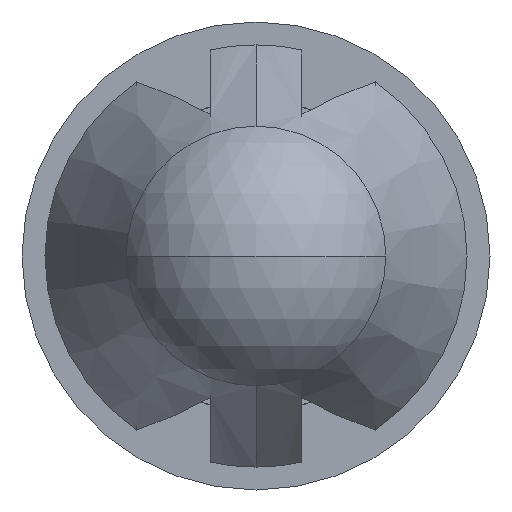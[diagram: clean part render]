
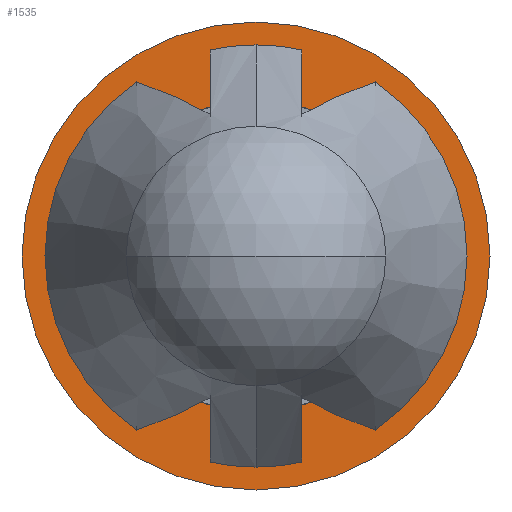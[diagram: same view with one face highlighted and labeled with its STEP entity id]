
A CAD part, front view. The second image highlights one B-rep face of the part: STEP entity #1535.
In plain terms, the highlighted planar face has unit normal (0, -1, 0).
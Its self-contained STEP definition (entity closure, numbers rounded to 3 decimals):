
#24 = EDGE_CURVE ( 'NONE', #1466, #1499, #358, .T. ) ;
#47 = EDGE_CURVE ( 'NONE', #1440, #1448, #335, .T. ) ;
#88 = EDGE_CURVE ( 'NONE', #1499, #1466, #263, .T. ) ;
#98 = EDGE_CURVE ( 'NONE', #1448, #1440, #247, .T. ) ;
#146 = FACE_BOUND ( 'NONE', #1383, .T. ) ;
#158 = FACE_OUTER_BOUND ( 'NONE', #1379, .T. ) ;
#247 = CIRCLE ( 'NONE', #531, 1.7 ) ;
#263 = CIRCLE ( 'NONE', #536, 2.55 ) ;
#335 = CIRCLE ( 'NONE', #478, 1.7 ) ;
#358 = CIRCLE ( 'NONE', #499, 2.55 ) ;
#461 = AXIS2_PLACEMENT_3D ( 'NONE', #586, #587, #582 ) ;
#478 = AXIS2_PLACEMENT_3D ( 'NONE', #1130, #1129, #1125 ) ;
#499 = AXIS2_PLACEMENT_3D ( 'NONE', #713, #707, #702 ) ;
#531 = AXIS2_PLACEMENT_3D ( 'NONE', #884, #883, #882 ) ;
#536 = AXIS2_PLACEMENT_3D ( 'NONE', #926, #922, #921 ) ;
#582 = DIRECTION ( 'NONE',  ( 0., 0., -1. ) ) ;
#584 = PLANE ( 'NONE',  #461 ) ;
#586 = CARTESIAN_POINT ( 'NONE',  ( 1.7, 0., 0. ) ) ;
#587 = DIRECTION ( 'NONE',  ( 0., -1., 0. ) ) ;
#650 = CARTESIAN_POINT ( 'NONE',  ( 0., 0., 2.55 ) ) ;
#687 = CARTESIAN_POINT ( 'NONE',  ( 0., 0., -2.55 ) ) ;
#702 = DIRECTION ( 'NONE',  ( 0., 0., -1. ) ) ;
#707 = DIRECTION ( 'NONE',  ( 0., -1., 0. ) ) ;
#709 = CARTESIAN_POINT ( 'NONE',  ( 0., 0., 1.7 ) ) ;
#713 = CARTESIAN_POINT ( 'NONE',  ( 0., 0., 0. ) ) ;
#719 = CARTESIAN_POINT ( 'NONE',  ( 0., 0., -1.7 ) ) ;
#882 = DIRECTION ( 'NONE',  ( 0., 0., -1. ) ) ;
#883 = DIRECTION ( 'NONE',  ( 0., -1., 0. ) ) ;
#884 = CARTESIAN_POINT ( 'NONE',  ( 0., 0., 0. ) ) ;
#921 = DIRECTION ( 'NONE',  ( 0., 0., -1. ) ) ;
#922 = DIRECTION ( 'NONE',  ( 0., -1., 0. ) ) ;
#926 = CARTESIAN_POINT ( 'NONE',  ( 0., 0., 0. ) ) ;
#1125 = DIRECTION ( 'NONE',  ( 0., 0., -1. ) ) ;
#1129 = DIRECTION ( 'NONE',  ( 0., -1., 0. ) ) ;
#1130 = CARTESIAN_POINT ( 'NONE',  ( 0., 0., 0. ) ) ;
#1333 = ORIENTED_EDGE ( 'NONE', *, *, #88, .T. ) ;
#1334 = ORIENTED_EDGE ( 'NONE', *, *, #24, .T. ) ;
#1335 = ORIENTED_EDGE ( 'NONE', *, *, #47, .F. ) ;
#1336 = ORIENTED_EDGE ( 'NONE', *, *, #98, .F. ) ;
#1379 = EDGE_LOOP ( 'NONE', ( #1334, #1333 ) ) ;
#1383 = EDGE_LOOP ( 'NONE', ( #1335, #1336 ) ) ;
#1440 = VERTEX_POINT ( 'NONE', #719 ) ;
#1448 = VERTEX_POINT ( 'NONE', #709 ) ;
#1466 = VERTEX_POINT ( 'NONE', #687 ) ;
#1499 = VERTEX_POINT ( 'NONE', #650 ) ;
#1535 = ADVANCED_FACE ( 'NONE', ( #158, #146 ), #584, .T. ) ;
